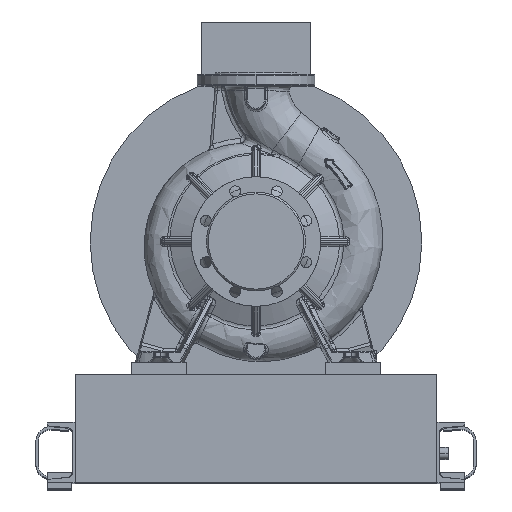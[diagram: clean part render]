
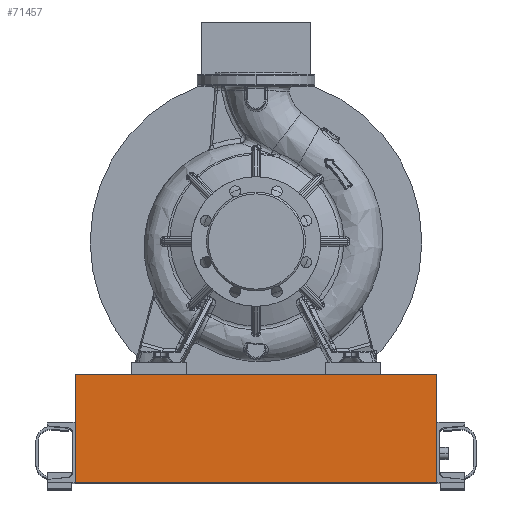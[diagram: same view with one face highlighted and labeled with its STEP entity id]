
A CAD part, top view. The second image highlights one B-rep face of the part: STEP entity #71457.
In plain terms, the highlighted planar face has unit normal (0, 0, 1).
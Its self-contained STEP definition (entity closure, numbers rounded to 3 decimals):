
#812 = CARTESIAN_POINT ( 'NONE',  ( -300., -400., 105.186 ) ) ;
#3409 = CARTESIAN_POINT ( 'NONE',  ( 300., -310., 105.186 ) ) ;
#4088 = DIRECTION ( 'NONE',  ( -1., 0., 0. ) ) ;
#4433 = VECTOR ( 'NONE', #29353, 1000. ) ;
#4552 = CARTESIAN_POINT ( 'NONE',  ( -300., -220., 105.186 ) ) ;
#6623 = CARTESIAN_POINT ( 'NONE',  ( 300., -400., 105.186 ) ) ;
#8195 = VERTEX_POINT ( 'NONE', #72804 ) ;
#8556 = LINE ( 'NONE', #56683, #4433 ) ;
#16759 = CARTESIAN_POINT ( 'NONE',  ( 300., -400., 105.186 ) ) ;
#18642 = VECTOR ( 'NONE', #35317, 1000. ) ;
#23751 = CARTESIAN_POINT ( 'NONE',  ( 300., -220., 105.186 ) ) ;
#25949 = LINE ( 'NONE', #6623, #58904 ) ;
#29353 = DIRECTION ( 'NONE',  ( 0., -1., 0. ) ) ;
#30150 = VERTEX_POINT ( 'NONE', #4552 ) ;
#35317 = DIRECTION ( 'NONE',  ( 0., -1., 0. ) ) ;
#36696 = ORIENTED_EDGE ( 'NONE', *, *, #36874, .T. ) ;
#36874 = EDGE_CURVE ( 'NONE', #83491, #30150, #51986, .T. ) ;
#42318 = LINE ( 'NONE', #3409, #18642 ) ;
#42809 = ORIENTED_EDGE ( 'NONE', *, *, #72784, .F. ) ;
#43196 = PLANE ( 'NONE',  #84651 ) ;
#49974 = ORIENTED_EDGE ( 'NONE', *, *, #60686, .F. ) ;
#51986 = LINE ( 'NONE', #62369, #84937 ) ;
#52047 = VERTEX_POINT ( 'NONE', #812 ) ;
#56432 = DIRECTION ( 'NONE',  ( 0., 0., -1. ) ) ;
#56683 = CARTESIAN_POINT ( 'NONE',  ( -300., -400., 105.186 ) ) ;
#58904 = VECTOR ( 'NONE', #59229, 1000. ) ;
#59229 = DIRECTION ( 'NONE',  ( -1., 0., 0. ) ) ;
#60686 = EDGE_CURVE ( 'NONE', #83491, #8195, #42318, .T. ) ;
#62369 = CARTESIAN_POINT ( 'NONE',  ( 300., -220., 105.186 ) ) ;
#67492 = ORIENTED_EDGE ( 'NONE', *, *, #72380, .T. ) ;
#71457 = ADVANCED_FACE ( 'NONE', ( #73306 ), #43196, .F. ) ;
#72380 = EDGE_CURVE ( 'NONE', #30150, #52047, #8556, .T. ) ;
#72784 = EDGE_CURVE ( 'NONE', #8195, #52047, #25949, .T. ) ;
#72804 = CARTESIAN_POINT ( 'NONE',  ( 300., -400., 105.186 ) ) ;
#73306 = FACE_OUTER_BOUND ( 'NONE', #80179, .T. ) ;
#80179 = EDGE_LOOP ( 'NONE', ( #67492, #42809, #49974, #36696 ) ) ;
#83491 = VERTEX_POINT ( 'NONE', #23751 ) ;
#84494 = DIRECTION ( 'NONE',  ( -1., 0., 0. ) ) ;
#84651 = AXIS2_PLACEMENT_3D ( 'NONE', #16759, #56432, #4088 ) ;
#84937 = VECTOR ( 'NONE', #84494, 1000. ) ;
